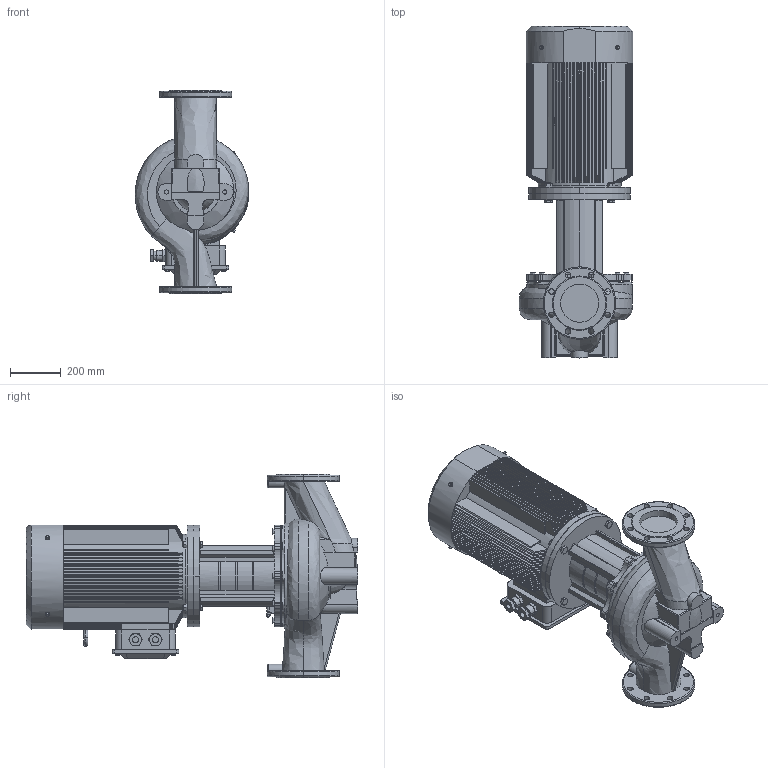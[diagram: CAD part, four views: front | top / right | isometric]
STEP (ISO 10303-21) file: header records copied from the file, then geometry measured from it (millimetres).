
FILE_DESCRIPTION(/* description */ (''),/* implementation_level */ '2;1');
FILE_NAME(/* name */ 'TD150-33-4安装尺寸图.stp',/* time_stamp */ '2026-09-07T16:44:09+08:00',/* author */ (''),/* organization */ (''),/* preprocessor_version */ 'ST-DEVELOPER v16.7',/* originating_system */ 'SIEMENS PLM Software NX 1847',/* authorisation */ '');
FILE_SCHEMA (('AP203_CONFIGURATION_CONTROLLED_3D_DESIGN_OF_MECHANICAL_PARTS_AND_ASSEMBLIES_MIM_LF { 1 0 10303 403 2 1 2}'));
Products named in the file (1): Admi55F8EAC4z4rq
Bounding box: 448.19 x 1306.5 x 800 mm (x, y, z)
Volume: 135499607.3 mm3; surface area: 6180223.3 mm2
Topology: 1 solids, 9 shells, 1462 faces, 3832 edges, 2469 vertices
Faces by surface type: plane 699, cylinder 351, cone 324, torus 52, bspline 34, sphere 2
Full cylindrical faces by diameter (mm): 8 x1, 10 x1, 11.701 x10, 12.9 x1, 16.63 x10, 17.623 x8, 25.34 x4, 305 x1, 320 x1
Entity records: 51346 total; most frequent: CARTESIAN_POINT 16358, ORIENTED_EDGE 7440, DIRECTION 7036, EDGE_CURVE 3720, AXIS2_PLACEMENT_3D 2744, VERTEX_POINT 2424, EDGE_LOOP 1676, LINE 1548
